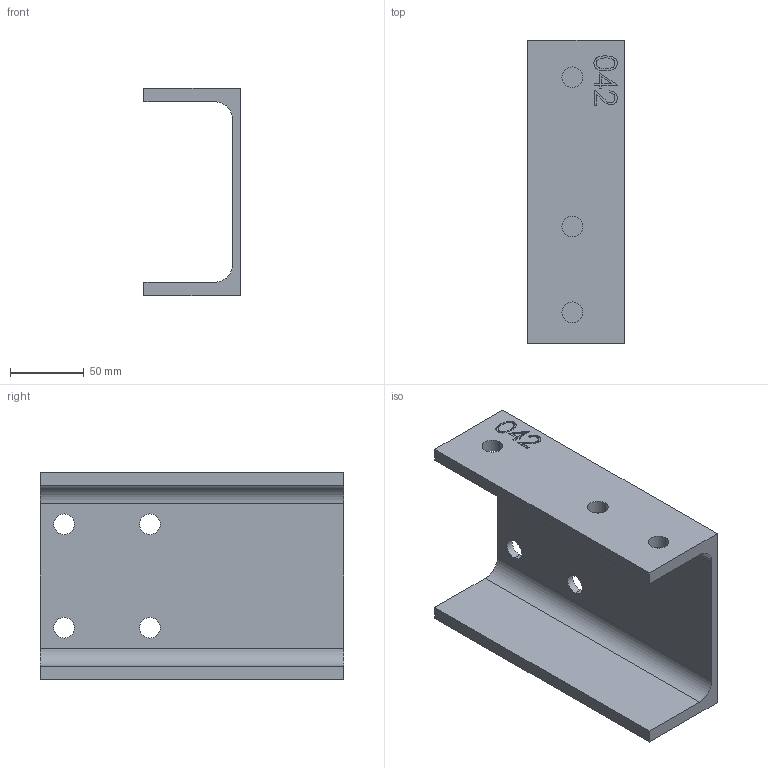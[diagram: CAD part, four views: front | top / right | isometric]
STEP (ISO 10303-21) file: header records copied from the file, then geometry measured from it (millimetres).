
FILE_DESCRIPTION (( 'STEP AP214' ), '1' );
FILE_NAME ('CCJ029-REP.042 - JONCTION PLANCHER INF.-POTEAU B4.STEP', '2024-01-10T14:37:17', ( '' ), ( '' ), 'SwSTEP 2.0', 'SolidWorks 2021', '' );
FILE_SCHEMA (( 'AUTOMOTIVE_DESIGN' ));
Length unit declared in the file: millimetre
Products named in the file (1): CCJ029-REP.042 - JONCTION PLANCHER INF.-POTEAU B4
Bounding box: 65 x 205 x 140 mm (x, y, z)
Volume: 370261.6 mm3; surface area: 110239.4 mm2
Topology: 1 solids, 1 shells, 65 faces, 174 edges, 116 vertices
Faces by surface type: plane 34, cylinder 16, bspline 15
Entity records: 3168 total; most frequent: CARTESIAN_POINT 1547, ORIENTED_EDGE 348, DIRECTION 278, EDGE_CURVE 174, VERTEX_POINT 116, VECTOR 112, LINE 112, EDGE_LOOP 84
